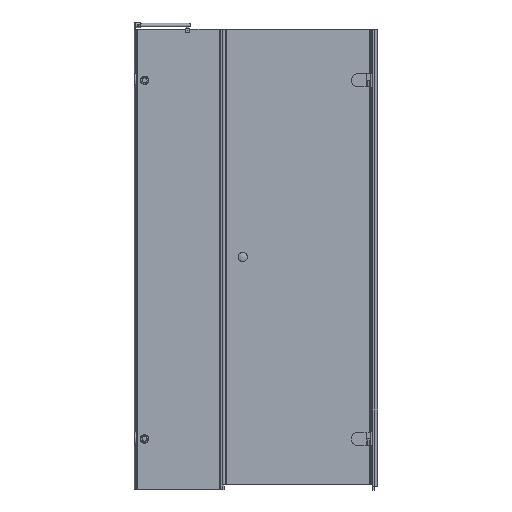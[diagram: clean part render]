
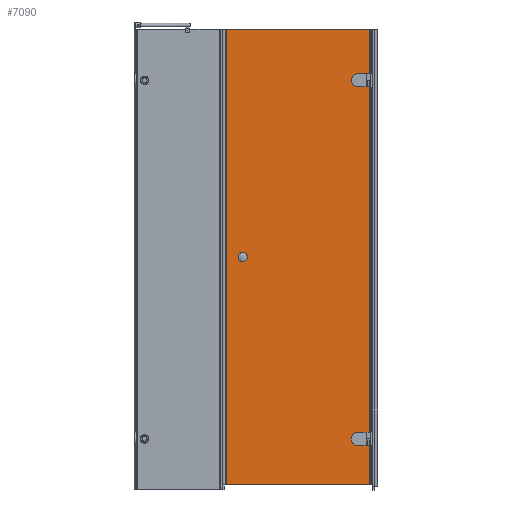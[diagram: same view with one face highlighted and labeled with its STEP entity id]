
A CAD part, left-side view. The second image highlights one B-rep face of the part: STEP entity #7090.
In plain terms, the highlighted planar face has unit normal (-1, 0, 0).
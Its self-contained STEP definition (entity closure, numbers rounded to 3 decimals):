
#176=LINE($,#10051,#842);
#178=LINE($,#10055,#844);
#181=LINE($,#10062,#847);
#276=LINE($,#10307,#942);
#278=LINE($,#10311,#944);
#281=LINE($,#10318,#947);
#468=LINE($,#11229,#1134);
#636=LINE($,#11726,#1302);
#653=LINE($,#11763,#1319);
#676=LINE($,#11811,#1342);
#842=VECTOR($,#8134,52.);
#844=VECTOR($,#8138,23.);
#847=VECTOR($,#8147,23.);
#942=VECTOR($,#8382,52.);
#944=VECTOR($,#8386,23.);
#947=VECTOR($,#8395,23.);
#1134=VECTOR($,#8968,590.7);
#1302=VECTOR($,#9432,590.7);
#1319=VECTOR($,#9477,1880.);
#1342=VECTOR($,#9538,1880.);
#1474=FACE_BOUND($,#2367,.T.);
#1475=FACE_BOUND($,#2368,.T.);
#1476=FACE_BOUND($,#2369,.T.);
#2367=EDGE_LOOP($,(#6015,#6016,#6017,#6018));
#2368=EDGE_LOOP($,(#6019,#6020,#6021,#6022));
#2369=EDGE_LOOP($,(#6023,#6024,#6025,#6026));
#2442=CIRCLE($,#7246,26.);
#2466=CIRCLE($,#7320,26.);
#2778=VERTEX_POINT($,#10048);
#2779=VERTEX_POINT($,#10050);
#2780=VERTEX_POINT($,#10054);
#2781=VERTEX_POINT($,#10058);
#2860=VERTEX_POINT($,#10304);
#2861=VERTEX_POINT($,#10306);
#2862=VERTEX_POINT($,#10310);
#2863=VERTEX_POINT($,#10314);
#3077=VERTEX_POINT($,#11226);
#3078=VERTEX_POINT($,#11228);
#3258=VERTEX_POINT($,#11723);
#3259=VERTEX_POINT($,#11725);
#3475=EDGE_CURVE($,#2779,#2778,#176,.T.);
#3477=EDGE_CURVE($,#2780,#2779,#178,.T.);
#3479=EDGE_CURVE($,#2781,#2780,#2442,.T.);
#3481=EDGE_CURVE($,#2778,#2781,#181,.T.);
#3599=EDGE_CURVE($,#2861,#2860,#276,.T.);
#3601=EDGE_CURVE($,#2862,#2861,#278,.T.);
#3603=EDGE_CURVE($,#2863,#2862,#2466,.T.);
#3605=EDGE_CURVE($,#2860,#2863,#281,.T.);
#3894=EDGE_CURVE($,#3077,#3078,#468,.T.);
#4146=EDGE_CURVE($,#3259,#3258,#636,.T.);
#4167=EDGE_CURVE($,#3077,#3259,#653,.T.);
#4190=EDGE_CURVE($,#3258,#3078,#676,.T.);
#6015=ORIENTED_EDGE($,*,*,#3475,.T.);
#6016=ORIENTED_EDGE($,*,*,#3481,.T.);
#6017=ORIENTED_EDGE($,*,*,#3479,.T.);
#6018=ORIENTED_EDGE($,*,*,#3477,.T.);
#6019=ORIENTED_EDGE($,*,*,#3599,.T.);
#6020=ORIENTED_EDGE($,*,*,#3605,.T.);
#6021=ORIENTED_EDGE($,*,*,#3603,.T.);
#6022=ORIENTED_EDGE($,*,*,#3601,.T.);
#6023=ORIENTED_EDGE($,*,*,#4167,.T.);
#6024=ORIENTED_EDGE($,*,*,#4146,.T.);
#6025=ORIENTED_EDGE($,*,*,#4190,.T.);
#6026=ORIENTED_EDGE($,*,*,#3894,.F.);
#6351=PLANE($,#7712);
#7090=ADVANCED_FACE($,(#1474,#1475,#1476),#6351,.T.);
#7246=AXIS2_PLACEMENT_3D($,#10059,#8142,#8143);
#7320=AXIS2_PLACEMENT_3D($,#10315,#8390,#8391);
#7712=AXIS2_PLACEMENT_3D($,#11843,#9586,#9587);
#8134=DIRECTION($,(0.,0.,-1.));
#8138=DIRECTION($,(0.,-1.,0.));
#8142=DIRECTION('center_axis',(1.,0.,0.));
#8143=DIRECTION('ref_axis',(0.,0.,-1.));
#8147=DIRECTION($,(0.,1.,0.));
#8382=DIRECTION($,(0.,0.,-1.));
#8386=DIRECTION($,(0.,-1.,0.));
#8390=DIRECTION('center_axis',(1.,0.,0.));
#8391=DIRECTION('ref_axis',(0.,0.,
-1.));
#8395=DIRECTION($,(0.,1.,0.));
#8968=DIRECTION($,(0.,-1.,0.));
#9432=DIRECTION($,(0.,-1.,0.));
#9477=DIRECTION($,(0.,0.,-1.));
#9538=DIRECTION($,(0.,0.,1.));
#9586=DIRECTION('center_axis',(-1.,0.,0.));
#9587=DIRECTION('ref_axis',(0.,-1.,0.));
#10048=CARTESIAN_POINT('',(1250.019,1.456,-330.056));
#10050=CARTESIAN_POINT('',(1250.019,1.456,-278.056));
#10051=CARTESIAN_POINT($,(1250.019,1.456,-386.056));
#10054=CARTESIAN_POINT('',(1250.019,24.456,-278.056));
#10055=CARTESIAN_POINT($,(1250.019,296.706,-278.056));
#10058=CARTESIAN_POINT('',(1250.019,24.456,-330.056));
#10059=CARTESIAN_POINT('Origin',(1250.019,24.456,-304.056));
#10062=CARTESIAN_POINT($,(1250.019,285.206,-330.056));
#10304=CARTESIAN_POINT('',(1250.019,1.456,1149.944));
#10306=CARTESIAN_POINT('',(1250.019,1.456,1201.944));
#10307=CARTESIAN_POINT($,(1250.019,1.456,353.944));
#10310=CARTESIAN_POINT('',(1250.019,24.456,1201.944));
#10311=CARTESIAN_POINT($,(1250.019,296.706,1201.944));
#10314=CARTESIAN_POINT('',(1250.019,24.456,1149.944));
#10315=CARTESIAN_POINT('Origin',(1250.019,24.456,1175.944));
#10318=CARTESIAN_POINT($,(1250.019,285.206,1149.944));
#11226=CARTESIAN_POINT('',(1250.019,564.356,1385.944));
#11228=CARTESIAN_POINT('',(1250.019,-26.344,1385.944));
#11229=CARTESIAN_POINT($,(1250.019,568.956,1385.944));
#11723=CARTESIAN_POINT('',(1250.019,-26.344,-494.056));
#11725=CARTESIAN_POINT('',(1250.019,564.356,-494.056));
#11726=CARTESIAN_POINT($,(1250.019,568.956,-494.056));
#11763=CARTESIAN_POINT($,(1250.019,564.356,1385.944));
#11811=CARTESIAN_POINT($,(1250.019,-26.344,-494.056));
#11843=CARTESIAN_POINT('Origin',(1250.019,568.956,-494.056));
